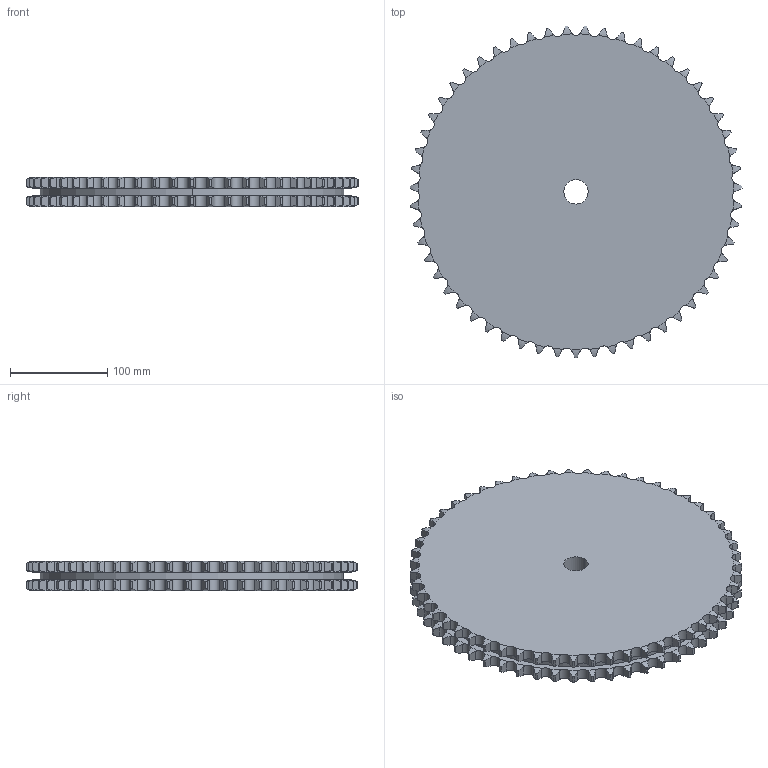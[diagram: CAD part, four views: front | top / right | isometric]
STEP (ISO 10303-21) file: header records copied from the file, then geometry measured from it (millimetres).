
FILE_DESCRIPTION((''),'2;1');
FILE_NAME('500-402-0055_PRT','2021-02-12T',('Brieden'),('Brieden'),'PRO/ENGINEER BY PARAMETRIC TECHNOLOGY CORPORATION, 2010160','PRO/ENGINEER BY PARAMETRIC TECHNOLOGY CORPORATION, 2010160','');
FILE_SCHEMA(('AUTOMOTIVE_DESIGN { 1 0 10303 214 1 1 1 1 }'));
Length unit declared in the file: millimetre
Products named in the file (1): 500-402-0055_PRT
Bounding box: 341.14 x 341 x 30.3 mm (x, y, z)
Volume: 2486010.1 mm3; surface area: 229937.1 mm2
Topology: 1 solids, 1 shells, 668 faces, 1992 edges, 1328 vertices
Faces by surface type: cylinder 444, torus 220, plane 4
Entity records: 32982 total; most frequent: CARTESIAN_POINT 10059, ORIENTED_EDGE 3984, DIRECTION 3116, PRESENTATION_STYLE_ASSIGNMENT 1993, STYLED_ITEM 1993, CURVE_STYLE 1992, EDGE_CURVE 1992, AXIS2_PLACEMENT_3D 1336
